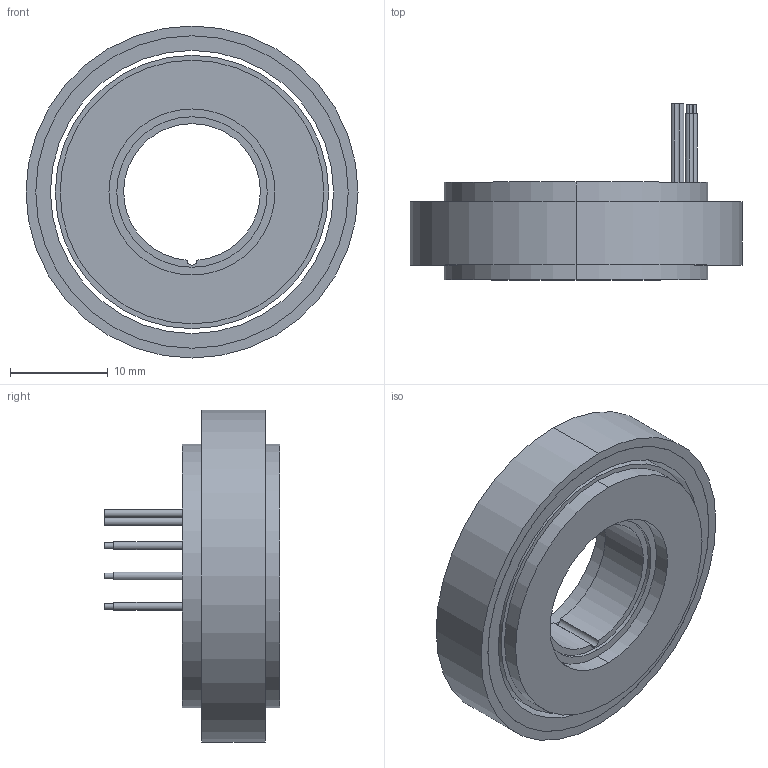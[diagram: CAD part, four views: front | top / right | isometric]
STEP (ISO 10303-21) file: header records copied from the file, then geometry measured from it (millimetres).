
FILE_DESCRIPTION (( 'STEP AP214' ), '1' );
FILE_NAME ('UE3410µç»ú.STEP', '2026-03-16T06:19:54', ( 'Windows User' ), ( 'P R C' ), 'SwSTEP 2.0', 'SolidWorks 2023', '' );
FILE_SCHEMA (( 'AUTOMOTIVE_DESIGN' ));
Length unit declared in the file: millimetre
Products named in the file (1): UE3410电机
Bounding box: 34 x 18 x 34 mm (x, y, z)
Volume: 5784.7 mm3; surface area: 4152.5 mm2
Topology: 2 solids, 2 shells, 61 faces, 123 edges, 82 vertices
Faces by surface type: cylinder 41, plane 20
Entity records: 1679 total; most frequent: DIRECTION 329, CARTESIAN_POINT 267, ORIENTED_EDGE 246, AXIS2_PLACEMENT_3D 144, EDGE_CURVE 123, VERTEX_POINT 82, CIRCLE 82, EDGE_LOOP 81
